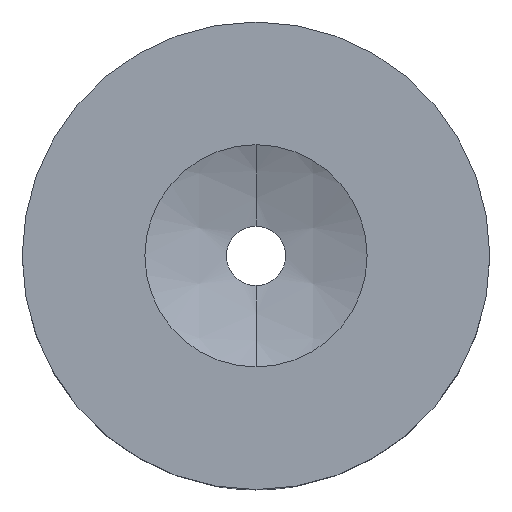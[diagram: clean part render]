
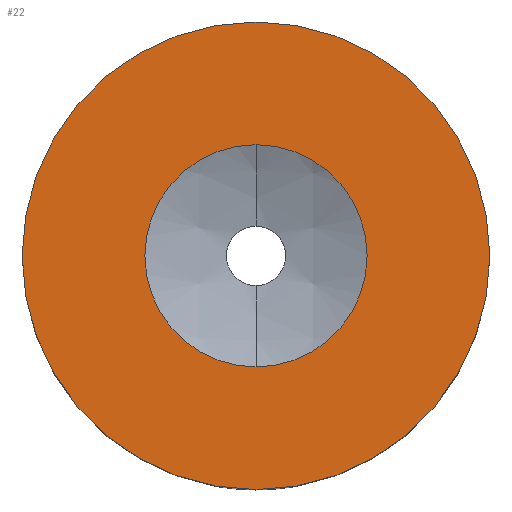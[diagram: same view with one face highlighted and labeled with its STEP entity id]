
A CAD part, top view. The second image highlights one B-rep face of the part: STEP entity #22.
In plain terms, the highlighted planar face has unit normal (0, 0, 1).
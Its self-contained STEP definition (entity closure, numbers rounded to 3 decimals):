
#11 = EDGE_CURVE ( 'NONE', #13, #675, #565, .T. ) ;
#13 = VERTEX_POINT ( 'NONE', #531 ) ;
#22 = ADVANCED_FACE ( 'NONE', ( #536, #207 ), #683, .T. ) ;
#24 = DIRECTION ( 'NONE',  ( 0., 0., -1. ) ) ;
#29 = EDGE_CURVE ( 'NONE', #675, #13, #423, .T. ) ;
#92 = DIRECTION ( 'NONE',  ( 1., 0., 0. ) ) ;
#99 = CARTESIAN_POINT ( 'NONE',  ( 0., 0., 0. ) ) ;
#100 = AXIS2_PLACEMENT_3D ( 'NONE', #312, #644, #522 ) ;
#122 = CARTESIAN_POINT ( 'NONE',  ( 0., 0., 0. ) ) ;
#139 = EDGE_LOOP ( 'NONE', ( #239, #490 ) ) ;
#140 = EDGE_CURVE ( 'NONE', #567, #211, #273, .T. ) ;
#146 = DIRECTION ( 'NONE',  ( 0., 0., 1. ) ) ;
#155 = CARTESIAN_POINT ( 'NONE',  ( 0., 0., 0. ) ) ;
#174 = ORIENTED_EDGE ( 'NONE', *, *, #11, .T. ) ;
#188 = EDGE_LOOP ( 'NONE', ( #174, #453 ) ) ;
#207 = FACE_OUTER_BOUND ( 'NONE', #188, .T. ) ;
#211 = VERTEX_POINT ( 'NONE', #452 ) ;
#212 = EDGE_CURVE ( 'NONE', #211, #567, #381, .T. ) ;
#239 = ORIENTED_EDGE ( 'NONE', *, *, #212, .T. ) ;
#269 = AXIS2_PLACEMENT_3D ( 'NONE', #640, #417, #525 ) ;
#273 = CIRCLE ( 'NONE', #269, 6.652 ) ;
#297 = AXIS2_PLACEMENT_3D ( 'NONE', #122, #24, #338 ) ;
#312 = CARTESIAN_POINT ( 'NONE',  ( 0., -1.75, 0. ) ) ;
#315 = CARTESIAN_POINT ( 'NONE',  ( -14., 0., 0. ) ) ;
#338 = DIRECTION ( 'NONE',  ( -1., 0., 0. ) ) ;
#360 = CARTESIAN_POINT ( 'NONE',  ( 0., -6.652, 0. ) ) ;
#375 = DIRECTION ( 'NONE',  ( 1., 0., 0. ) ) ;
#381 = CIRCLE ( 'NONE', #297, 6.652 ) ;
#417 = DIRECTION ( 'NONE',  ( 0., 0., -1. ) ) ;
#423 = CIRCLE ( 'NONE', #641, 14. ) ;
#452 = CARTESIAN_POINT ( 'NONE',  ( 0., 6.652, 0. ) ) ;
#453 = ORIENTED_EDGE ( 'NONE', *, *, #29, .T. ) ;
#471 = AXIS2_PLACEMENT_3D ( 'NONE', #99, #592, #92 ) ;
#490 = ORIENTED_EDGE ( 'NONE', *, *, #140, .T. ) ;
#522 = DIRECTION ( 'NONE',  ( 1., 0., 0. ) ) ;
#525 = DIRECTION ( 'NONE',  ( -1., 0., 0. ) ) ;
#531 = CARTESIAN_POINT ( 'NONE',  ( 14., 0., 0. ) ) ;
#536 = FACE_BOUND ( 'NONE', #139, .T. ) ;
#565 = CIRCLE ( 'NONE', #471, 14. ) ;
#567 = VERTEX_POINT ( 'NONE', #360 ) ;
#592 = DIRECTION ( 'NONE',  ( 0., 0., 1. ) ) ;
#640 = CARTESIAN_POINT ( 'NONE',  ( 0., 0., 0. ) ) ;
#641 = AXIS2_PLACEMENT_3D ( 'NONE', #155, #146, #375 ) ;
#644 = DIRECTION ( 'NONE',  ( 0., 0., 1. ) ) ;
#675 = VERTEX_POINT ( 'NONE', #315 ) ;
#683 = PLANE ( 'NONE',  #100 ) ;
